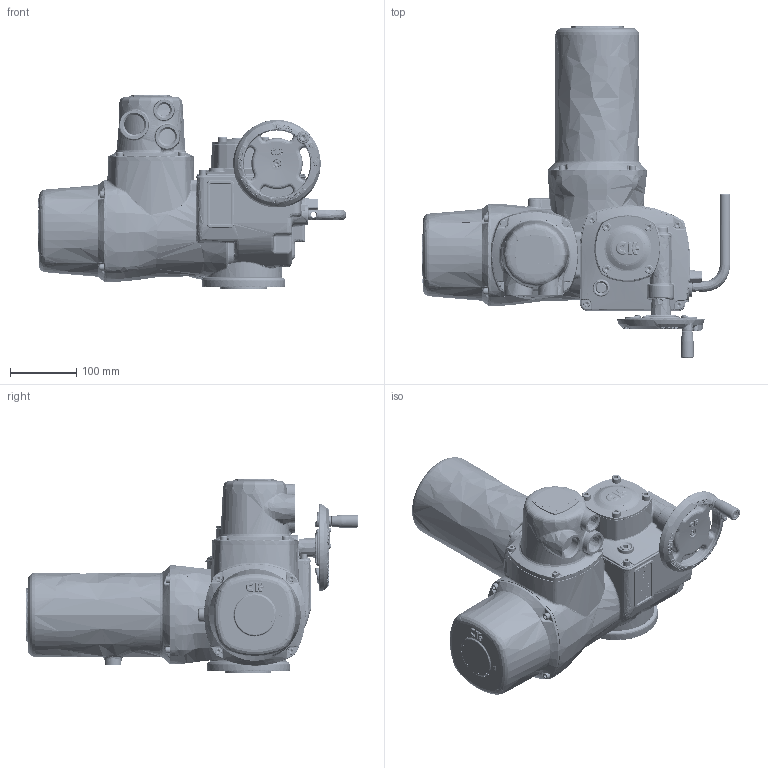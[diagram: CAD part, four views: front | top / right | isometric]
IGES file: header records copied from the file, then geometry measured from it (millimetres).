
Start section: C
Global section: file name: CK120 F10 NON THRUST BASE -AID & LARGE MOTOR.igs; native system: By Siemens PLM Incorporated; preprocessor: XPlus GENERIC/IGES 19.0.9; author: Author; organization: Title; date: 20170823.183629; units: millimetre
Bounding box: 464.35 x 499.65 x 292.21 mm (x, y, z)
Surface area: 536048.7 mm2 (no closed solid volume)
Topology: 0 solids, 0 shells, 4939 faces, 28543 edges, 28291 vertices
Faces by surface type: bspline 4939
